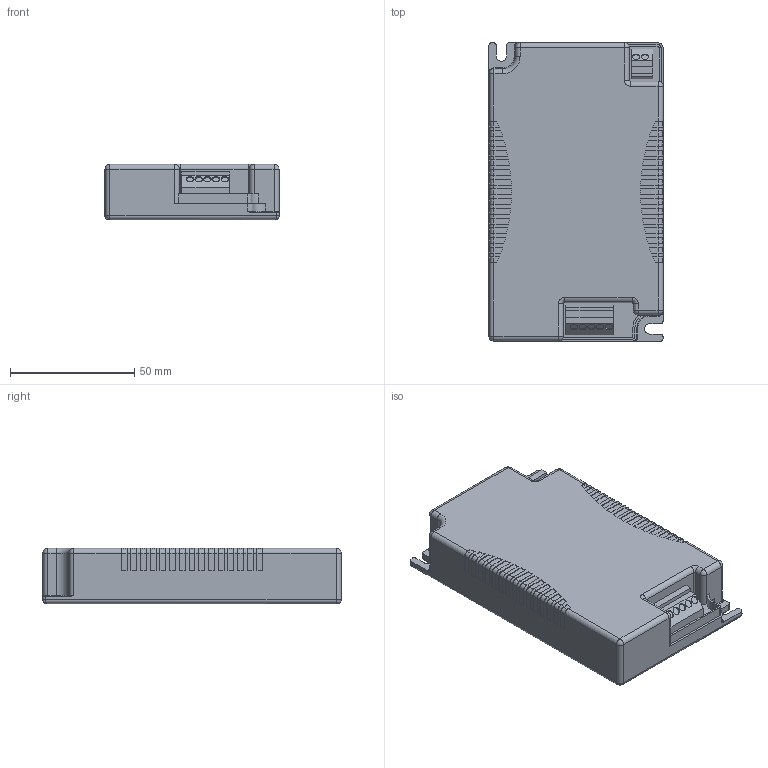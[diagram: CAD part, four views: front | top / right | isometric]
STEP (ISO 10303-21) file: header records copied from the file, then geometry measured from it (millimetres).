
FILE_DESCRIPTION((''),'2;1');
FILE_NAME('15009239Z','2015-02-19T',('erich.spiegel'),(''),'PRO/ENGINEER BY PARAMETRIC TECHNOLOGY CORPORATION, 2014000','PRO/ENGINEER BY PARAMETRIC TECHNOLOGY CORPORATION, 2014000','');
FILE_SCHEMA(('AUTOMOTIVE_DESIGN { 1 0 10303 214 1 1 1 1 }'));
Length unit declared in the file: millimetre
Products named in the file (1): 15009239Z
Bounding box: 70 x 120 x 22.3 mm (x, y, z)
Volume: 175247.9 mm3; surface area: 26596.6 mm2
Topology: 1 solids, 1 shells, 407 faces, 1122 edges, 726 vertices
Faces by surface type: plane 216, cylinder 159, torus 16, bspline 8, sphere 8
Entity records: 17305 total; most frequent: CARTESIAN_POINT 2666, ORIENTED_EDGE 2244, DIRECTION 2238, PRESENTATION_STYLE_ASSIGNMENT 1145, STYLED_ITEM 1123, CURVE_STYLE 1122, EDGE_CURVE 1122, VECTOR 768
